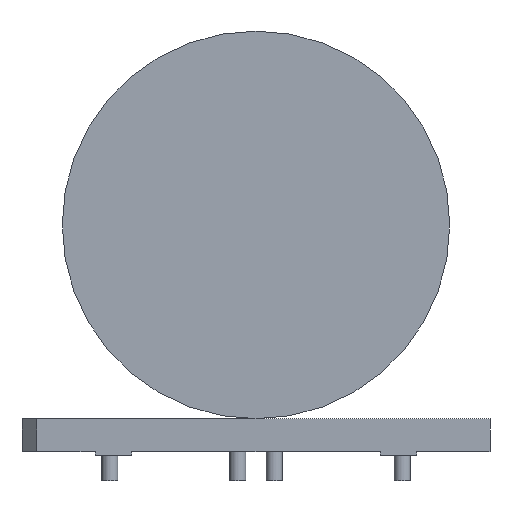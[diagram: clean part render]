
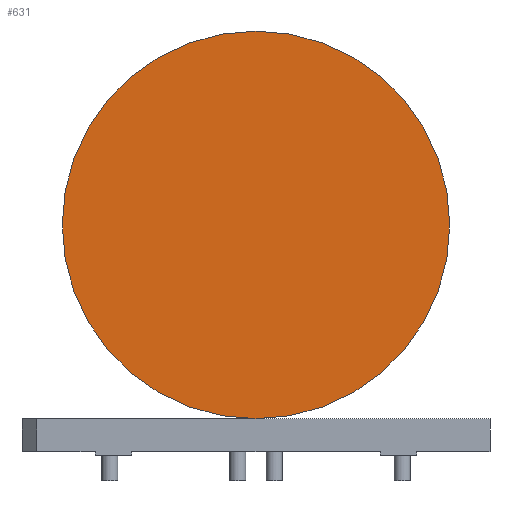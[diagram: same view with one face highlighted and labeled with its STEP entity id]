
A CAD part, front view. The second image highlights one B-rep face of the part: STEP entity #631.
In plain terms, the highlighted planar face has unit normal (0, -1, 0) by its records, which use the part's own axes.
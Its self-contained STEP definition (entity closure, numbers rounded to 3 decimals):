
#46=CIRCLE('',#691,26.5);
#79=FACE_OUTER_BOUND('',#130,.T.);
#130=EDGE_LOOP('',(#532));
#284=VERTEX_POINT('',#905);
#397=EDGE_CURVE('',#284,#284,#46,.T.);
#532=ORIENTED_EDGE('',*,*,#397,.T.);
#593=PLANE('',#690);
#631=ADVANCED_FACE('',(#79),#593,.F.);
#690=AXIS2_PLACEMENT_3D('',#1030,#847,#848);
#691=AXIS2_PLACEMENT_3D('',#1031,#849,#850);
#847=DIRECTION('center_axis',(0.,1.,0.));
#848=DIRECTION('ref_axis',(0.,0.,1.));
#849=DIRECTION('center_axis',(0.,-1.,0.));
#850=DIRECTION('ref_axis',(1.,0.,0.));
#905=CARTESIAN_POINT('',(0.,-16.,4.5));
#1030=CARTESIAN_POINT('Origin',(0.,-16.,31.));
#1031=CARTESIAN_POINT('Origin',(0.,-16.,31.));
